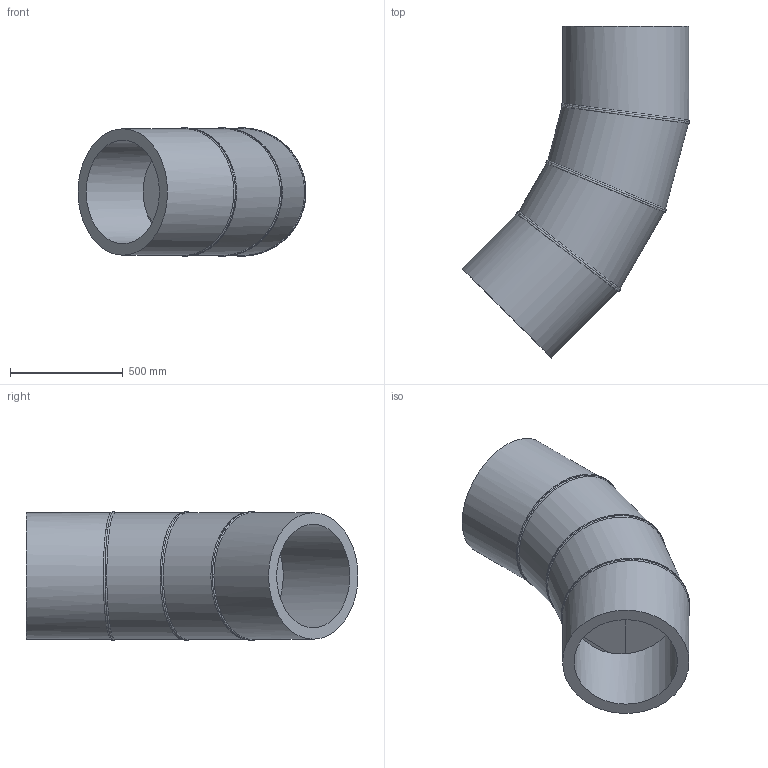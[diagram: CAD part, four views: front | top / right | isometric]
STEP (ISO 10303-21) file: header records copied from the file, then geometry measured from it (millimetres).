
FILE_DESCRIPTION(/* description */ ('Unknown'),/* implementation_level */ '2;1');
FILE_NAME(/* name */ 'Curva 45° a settore DE560 SDR11',/* time_stamp */ '2022-07-26T09:32:49+02:00',/* author */ ('Unknown'),/* organization */ ('Unknown'),/* preprocessor_version */ 'ST-DEVELOPER v18.102',/* originating_system */ 'Solid Edge',/* authorisation */ 'Unknown');
FILE_SCHEMA (('AUTOMOTIVE_DESIGN {1 0 10303 214 3 1 1}'));
Length unit declared in the file: millimetre
Products named in the file (3): Curva 45° a settore DE560 SDR11; Tubo x Gomito 45° DE560 SDR11 - 1; Tubo x Gomito 45° DE560 SDR11 - 2
Assembly tree (4 placements, depth 2):
  Curva 45° a settore DE560 SDR11
    Tubo x Gomito 45° DE560 SDR11 - 1  x2
    Tubo x Gomito 45° DE560 SDR11 - 2  x2
Bounding box: 1008.77 x 1469.77 x 567.99 mm (x, y, z)
Volume: 117384967 mm3; surface area: 5314844.5 mm2
Topology: 4 solids, 4 shells, 34 faces, 74 edges, 48 vertices
Faces by surface type: cylinder 20, plane 8, bspline 6
Full cylindrical faces by diameter (mm): 458.4 x4, 560 x4
Entity records: 3476 total; most frequent: CARTESIAN_POINT 3074, DIRECTION 72, ORIENTED_EDGE 52, AXIS2_PLACEMENT_3D 36, EDGE_LOOP 28, FACE_BOUND 28, EDGE_CURVE 26, VERTEX_POINT 20
